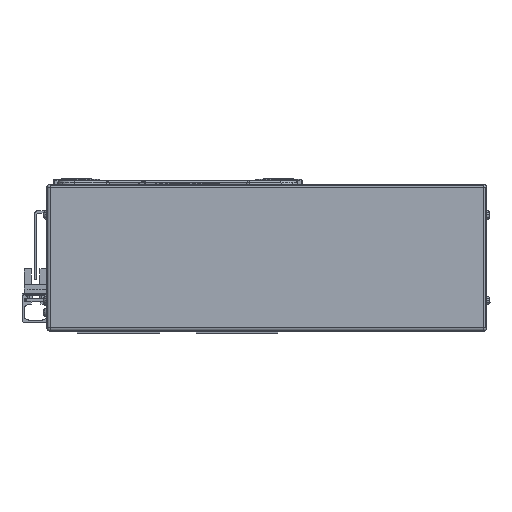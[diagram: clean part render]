
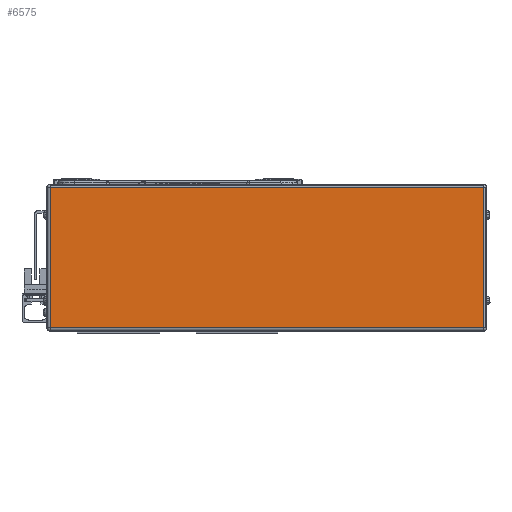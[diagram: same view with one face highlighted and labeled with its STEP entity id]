
A CAD part, left-side view. The second image highlights one B-rep face of the part: STEP entity #6575.
In plain terms, the highlighted planar face has unit normal (-1, 0, 0).
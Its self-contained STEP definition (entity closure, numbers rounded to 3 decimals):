
#6575=ADVANCED_FACE('',(#13961),#13962,.T.);
#13961=FACE_OUTER_BOUND('',#23214,.T.);
#13962=PLANE('',#23215);
#23214=EDGE_LOOP('',(#42106,#42107,#42108,#42109));
#23215=AXIS2_PLACEMENT_3D('',#42110,#42111,#42112);
#42106=ORIENTED_EDGE('',*,*,#54503,.F.);
#42107=ORIENTED_EDGE('',*,*,#56819,.F.);
#42108=ORIENTED_EDGE('',*,*,#56182,.F.);
#42109=ORIENTED_EDGE('',*,*,#56200,.F.);
#42110=CARTESIAN_POINT('',(-45.,-180.5,0.));
#42111=DIRECTION('',(-1.0,0.,0.));
#42112=DIRECTION('',(0.,0.,1.0));
#54503=EDGE_CURVE('',#66671,#66673,#66674,.T.);
#56182=EDGE_CURVE('',#63317,#66972,#69061,.T.);
#56200=EDGE_CURVE('',#66673,#63317,#69085,.T.);
#56819=EDGE_CURVE('',#66972,#66671,#69934,.T.);
#63317=VERTEX_POINT('',#78617);
#66671=VERTEX_POINT('',#83092);
#66673=VERTEX_POINT('',#83094);
#66674=LINE('',#83095,#83096);
#66972=VERTEX_POINT('',#83529);
#69061=LINE('',#86426,#86427);
#69085=LINE('',#86457,#86458);
#69934=LINE('',#87691,#87692);
#78617=CARTESIAN_POINT('',(-45.,74.5,-41.));
#83092=CARTESIAN_POINT('',(-45.,-178.5,41.));
#83094=CARTESIAN_POINT('',(-45.,-178.5,-41.));
#83095=CARTESIAN_POINT('',(-45.,-178.5,0.));
#83096=VECTOR('',#97937,10.0);
#83529=CARTESIAN_POINT('',(-45.,74.5,41.));
#86426=CARTESIAN_POINT('',(-45.,74.5,0.));
#86427=VECTOR('',#100064,10.0);
#86457=CARTESIAN_POINT('',(-45.,-180.5,-41.));
#86458=VECTOR('',#100089,10.0);
#87691=CARTESIAN_POINT('',(-45.,-180.5,41.));
#87692=VECTOR('',#100870,10.0);
#97937=DIRECTION('',(0.,0.,-1.0));
#100064=DIRECTION('',(0.,0.,1.0));
#100089=DIRECTION('',(0.,1.0,0.));
#100870=DIRECTION('',(0.,-1.0,0.));
